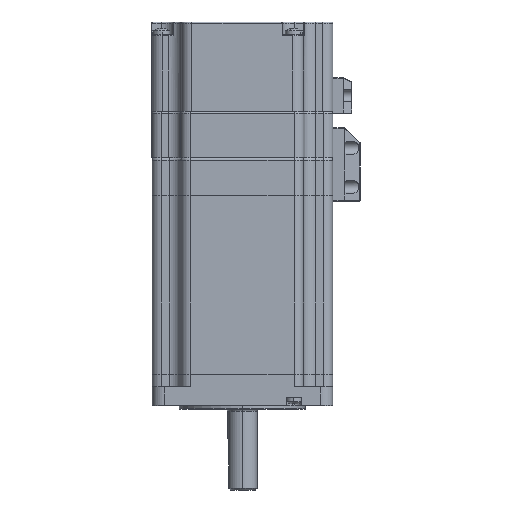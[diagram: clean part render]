
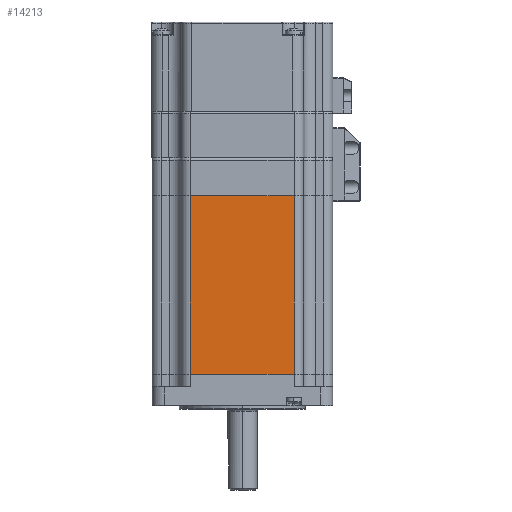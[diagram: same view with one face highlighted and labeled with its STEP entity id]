
A CAD part, left-side view. The second image highlights one B-rep face of the part: STEP entity #14213.
In plain terms, the highlighted planar face has unit normal (-1, 0, 0).
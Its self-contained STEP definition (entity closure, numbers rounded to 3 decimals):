
#201 = EDGE_CURVE ( 'NONE', #205, #25136, #6393, .T. ) ;
#205 = VERTEX_POINT ( 'NONE', #32305 ) ;
#2533 = CARTESIAN_POINT ( 'NONE',  ( -42.925, -24.65, -85. ) ) ;
#2765 = ORIENTED_EDGE ( 'NONE', *, *, #201, .F. ) ;
#3273 = DIRECTION ( 'NONE',  ( 0., -1., 0. ) ) ;
#4072 = DIRECTION ( 'NONE',  ( 0., 0., 1. ) ) ;
#4969 = ORIENTED_EDGE ( 'NONE', *, *, #9100, .T. ) ;
#5185 = LINE ( 'NONE', #2533, #19518 ) ;
#6393 = LINE ( 'NONE', #32667, #16779 ) ;
#7340 = PLANE ( 'NONE',  #17774 ) ;
#8665 = EDGE_LOOP ( 'NONE', ( #9001, #2765, #4969, #36772 ) ) ;
#9001 = ORIENTED_EDGE ( 'NONE', *, *, #21483, .F. ) ;
#9100 = EDGE_CURVE ( 'NONE', #205, #19752, #5185, .T. ) ;
#10238 = VECTOR ( 'NONE', #26206, 1000. ) ;
#10239 = DIRECTION ( 'NONE',  ( 0., 0., 1. ) ) ;
#11136 = LINE ( 'NONE', #20323, #10238 ) ;
#14213 = ADVANCED_FACE ( 'NONE', ( #36821 ), #7340, .T. ) ;
#16185 = VERTEX_POINT ( 'NONE', #22209 ) ;
#16382 = EDGE_CURVE ( 'NONE', #19752, #16185, #11136, .T. ) ;
#16779 = VECTOR ( 'NONE', #4072, 1000. ) ;
#17063 = VECTOR ( 'NONE', #19359, 1000. ) ;
#17774 = AXIS2_PLACEMENT_3D ( 'NONE', #33057, #27427, #10239 ) ;
#17914 = CARTESIAN_POINT ( 'NONE',  ( -42.925, 24.65, 0. ) ) ;
#19359 = DIRECTION ( 'NONE',  ( 0., -1., 0. ) ) ;
#19518 = VECTOR ( 'NONE', #3273, 1000. ) ;
#19752 = VERTEX_POINT ( 'NONE', #25524 ) ;
#20323 = CARTESIAN_POINT ( 'NONE',  ( -42.925, -24.65, -85. ) ) ;
#21483 = EDGE_CURVE ( 'NONE', #25136, #16185, #36297, .T. ) ;
#22209 = CARTESIAN_POINT ( 'NONE',  ( -42.925, -24.65, 0. ) ) ;
#25136 = VERTEX_POINT ( 'NONE', #17914 ) ;
#25146 = CARTESIAN_POINT ( 'NONE',  ( -42.925, -24.65, 0. ) ) ;
#25524 = CARTESIAN_POINT ( 'NONE',  ( -42.925, -24.65, -85. ) ) ;
#26206 = DIRECTION ( 'NONE',  ( 0., 0., 1. ) ) ;
#27427 = DIRECTION ( 'NONE',  ( -1., 0., 0. ) ) ;
#32305 = CARTESIAN_POINT ( 'NONE',  ( -42.925, 24.65, -85. ) ) ;
#32667 = CARTESIAN_POINT ( 'NONE',  ( -42.925, 24.65, -85. ) ) ;
#33057 = CARTESIAN_POINT ( 'NONE',  ( -42.925, -24.65, -85. ) ) ;
#36297 = LINE ( 'NONE', #25146, #17063 ) ;
#36772 = ORIENTED_EDGE ( 'NONE', *, *, #16382, .T. ) ;
#36821 = FACE_OUTER_BOUND ( 'NONE', #8665, .T. ) ;
